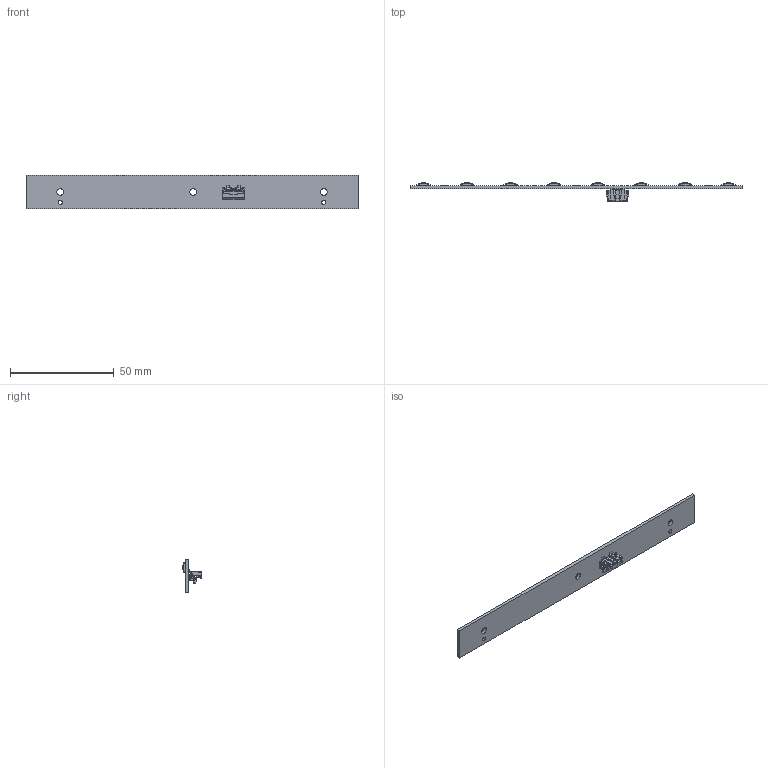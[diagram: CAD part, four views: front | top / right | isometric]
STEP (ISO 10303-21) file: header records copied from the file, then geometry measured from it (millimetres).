
FILE_DESCRIPTION((''),'2;1');
FILE_NAME('BUTTON_PCB_ASSY_ASM_12_ASM_1_AS_ASM','2020-12-04T',('g6007893'),(''),'PRO/ENGINEER BY PARAMETRIC TECHNOLOGY CORPORATION, 2013320','PRO/ENGINEER BY PARAMETRIC TECHNOLOGY CORPORATION, 2013320','');
FILE_SCHEMA(('AUTOMOTIVE_DESIGN { 1 0 10303 214 1 1 1 1 }'));
Length unit declared in the file: millimetre
Products named in the file (4): BUTTON_PCB_16_1_1_1; TACT_SWITCH_3_1_1_1_1; 5022311500; BUTTON_PCB_ASSY_ASM_12_ASM_1_AS_ASM
Assembly tree (10 placements, depth 2):
  BUTTON_PCB_ASSY_ASM_12_ASM_1_AS_ASM
    BUTTON_PCB_16_1_1_1
    TACT_SWITCH_3_1_1_1_1  x8
    5022311500
Bounding box: 160 x 9.15 x 16 mm (x, y, z)
Volume: 4393.5 mm3; surface area: 6941.9 mm2
Topology: 10 solids, 10 shells, 1357 faces, 3992 edges, 2620 vertices
Faces by surface type: plane 1093, cylinder 184, bspline 48, sphere 32
Entity records: 32917 total; most frequent: CARTESIAN_POINT 6251, ORIENTED_EDGE 5764, DIRECTION 5108, EDGE_CURVE 2882, VECTOR 2534, LINE 2534, VERTEX_POINT 1934, AXIS2_PLACEMENT_3D 1287
